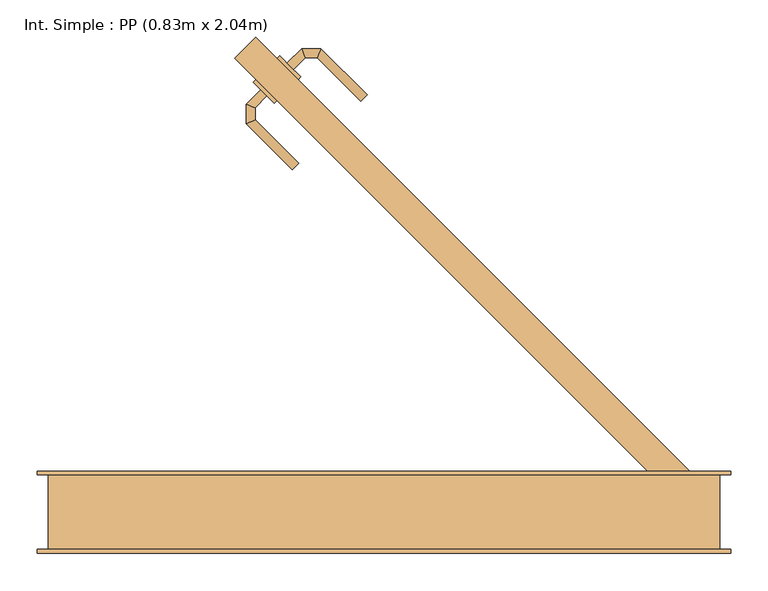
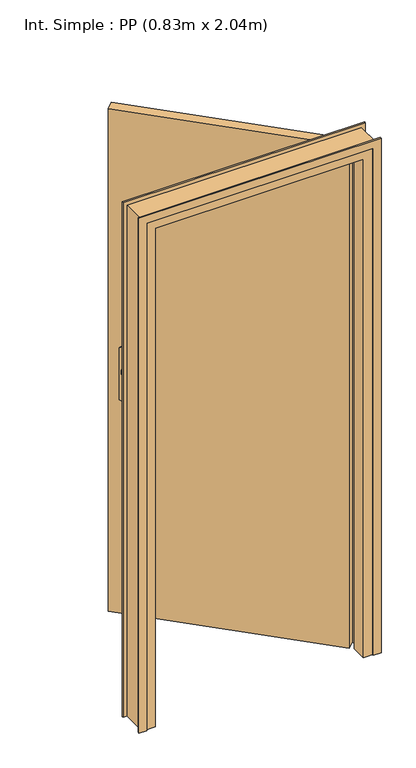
"""IFC4 building model written with IfcOpenShell, lengths in millimetres: door geometry, Int. Simple : PP (0.83m x 2.04m)."""

import ifcopenshell
import ifcopenshell.guid

model = None  # the IFC model being written
_history = None  # IfcOwnerHistory: only IFC2X3 demands one
_inside = {}  # id of a spatial element -> (the spatial element, [elements in it])
_under = {}  # id of a project, library or spatial element -> (it, [spatial elements below it])
_declared = {}  # id of a project -> (the project, [libraries it declares])
_typed = {}  # id of a type object -> (the type object, [elements of that type])
_made_of = {}  # id of a material, layer set ... -> (it, [elements and type objects made of it])


def new_model(schema):
    """Start an empty IFC model of exactly this schema.

    Asked for "IFC4X3", IfcOpenShell would pick the latest addendum, in which some entities
    have other attributes; the version numbers below select the first issue.
    IFC2X3 requires an IfcOwnerHistory on every rooted entity: one is made here for all.
    """
    global model, _history
    if schema == "IFC4X3":
        model = ifcopenshell.file(schema_version=(4, 3, 0, 0))
    else:
        model = ifcopenshell.file(schema=schema)
    _inside.clear()
    _under.clear()
    _declared.clear()
    _typed.clear()
    _made_of.clear()
    _history = None
    if model.schema == "IFC2X3":
        org = make("IfcOrganization", Name="unknown")
        user = make(
            "IfcPersonAndOrganization",
            ThePerson=make("IfcPerson", FamilyName="unknown"),
            TheOrganization=org,
        )
        app = make(
            "IfcApplication",
            ApplicationDeveloper=org,
            Version="unknown",
            ApplicationFullName="unknown",
            ApplicationIdentifier="unknown",
        )
        _history = make(
            "IfcOwnerHistory",
            OwningUser=user,
            OwningApplication=app,
            ChangeAction="ADDED",
            CreationDate=0,
        )
    return model


def make(cls, **values):
    """One entity of the class cls with the attributes given. An attribute that is None is left unset."""
    return model.create_entity(
        cls, **{name: value for name, value in values.items() if value is not None}
    )


def rooted(cls, **values):
    """An entity with a GlobalId (a new one), such as an element, a storey or a relation."""
    return make(cls, GlobalId=ifcopenshell.guid.new(), OwnerHistory=_history, **values)


def si_unit(unit_type, name, prefix=None):
    """IfcSIUnit, for example si_unit("LENGTHUNIT", "METRE", prefix="MILLI")."""
    return make("IfcSIUnit", UnitType=unit_type, Prefix=prefix, Name=name)


def assignment(units):
    """IfcUnitAssignment: the units of a project."""
    return None if units is None else make("IfcUnitAssignment", Units=units)


def point(xyz):
    """IfcCartesianPoint."""
    return None if xyz is None else make("IfcCartesianPoint", Coordinates=xyz)


def direction(xyz):
    """IfcDirection."""
    return None if xyz is None else make("IfcDirection", DirectionRatios=xyz)


def frame(location, z_axis=None, x_axis=None):
    """IfcAxis2Placement3D, a coordinate frame: its origin and axes. An axis left out is left unset."""
    return make(
        "IfcAxis2Placement3D",
        Location=point(location),
        Axis=direction(z_axis),
        RefDirection=direction(x_axis),
    )


def frame_2d(location, x_axis=None):
    """IfcAxis2Placement2D, a coordinate frame in the plane: its origin and x axis."""
    return make(
        "IfcAxis2Placement2D", Location=point(location), RefDirection=direction(x_axis)
    )


def origin():
    """The frame at (0, 0, 0) with its axes left unset."""
    return frame((0.0, 0.0, 0.0))


def origin_with_axes():
    """The frame at (0, 0, 0) with the z axis (0, 0, 1) and the x axis (1, 0, 0) written out."""
    return frame((0.0, 0.0, 0.0), z_axis=(0.0, 0.0, 1.0), x_axis=(1.0, 0.0, 0.0))


def place(relative_to, where):
    """IfcLocalPlacement: puts the frame where relative to a parent placement (None: the world)."""
    return make(
        "IfcLocalPlacement", PlacementRelTo=relative_to, RelativePlacement=where
    )


def context(
    kind, dimensions, precision=None, world=None, true_north=None, identifier=None
):
    """IfcGeometricRepresentationContext, for example the 3D "Model" context."""
    return make(
        "IfcGeometricRepresentationContext",
        ContextIdentifier=identifier,
        ContextType=kind,
        CoordinateSpaceDimension=dimensions,
        Precision=precision,
        WorldCoordinateSystem=world,
        TrueNorth=true_north,
    )


def project(units=None, contexts=None):
    """IfcProject with its units and contexts."""
    return rooted(
        "IfcProject",
        Name="project",
        RepresentationContexts=contexts,
        UnitsInContext=assignment(units),
    )


def spatial(cls, under=None, at=None, **own):
    """A site, building, storey or space (cls), placed at a placement, below another one or the project."""
    s = rooted(cls, ObjectPlacement=at, **own)
    if under is not None:
        _under.setdefault(under.id(), (under, []))[1].append(s)
    return s


def polyline(points):
    """IfcPolyline through the points."""
    return make("IfcPolyline", Points=[point(p) for p in points])


def circle_curve(where, radius):
    """IfcCircle in the frame where."""
    return make("IfcCircle", Position=where, Radius=radius)


def ellipse_curve(where, semi_axis1, semi_axis2):
    """IfcEllipse in the frame where."""
    return make(
        "IfcEllipse", Position=where, SemiAxis1=semi_axis1, SemiAxis2=semi_axis2
    )


def trimmed(basis, trim1, trim2, sense, master):
    """IfcTrimmedCurve: the piece of a basis curve between two trims."""
    return make(
        "IfcTrimmedCurve",
        BasisCurve=basis,
        Trim1=trim1,
        Trim2=trim2,
        SenseAgreement=sense,
        MasterRepresentation=master,
    )


def segment(curve, same_sense, transition):
    """IfcCompositeCurveSegment."""
    return make(
        "IfcCompositeCurveSegment",
        Transition=transition,
        SameSense=same_sense,
        ParentCurve=curve,
    )


def composite_curve(segments, self_intersect=None):
    """IfcCompositeCurve: segments joined end to end."""
    return make("IfcCompositeCurve", Segments=segments, SelfIntersect=self_intersect)


def outline(outer, holes=None, kind="AREA"):
    """IfcArbitraryClosedProfileDef: a profile drawn as a closed curve; with holes, ...WithVoids."""
    if holes is None:
        return make("IfcArbitraryClosedProfileDef", ProfileType=kind, OuterCurve=outer)
    return make(
        "IfcArbitraryProfileDefWithVoids",
        ProfileType=kind,
        OuterCurve=outer,
        InnerCurves=holes,
    )


def extrude(swept, where, along, depth):
    """IfcExtrudedAreaSolid: the profile swept, set in the frame where, extruded along a direction by depth."""
    return make(
        "IfcExtrudedAreaSolid",
        SweptArea=swept,
        Position=where,
        ExtrudedDirection=direction(along),
        Depth=depth,
    )


def faces_of(points, faces, orient=None, outer=None):
    """IfcFace entities. A face is a list of loops; a loop is a list of indices into points, from 0.

    orient and outer hold one flag for each loop. By default every Orientation is true, the
    first loop of a face is its IfcFaceOuterBound and the others are IfcFaceBound.
    """
    made = []
    for i, loops in enumerate(faces):
        bounds = []
        for j, loop in enumerate(loops):
            is_outer = j == 0 if outer is None else outer[i][j]
            bounds.append(
                make(
                    "IfcFaceOuterBound" if is_outer else "IfcFaceBound",
                    Bound=make("IfcPolyLoop", Polygon=[points[k] for k in loop]),
                    Orientation=True if orient is None else orient[i][j],
                )
            )
        made.append(make("IfcFace", Bounds=bounds))
    return made


def faceted_brep(points, faces, orient=None, outer=None, voids=None):
    """IfcFacetedBrep: a solid bounded by flat faces; with voids (closed shells), ...WithVoids."""
    shared = [point(p) for p in points]
    hull = make("IfcClosedShell", CfsFaces=faces_of(shared, faces, orient, outer))
    if voids is None:
        return make("IfcFacetedBrep", Outer=hull)
    return make(
        "IfcFacetedBrepWithVoids",
        Outer=hull,
        Voids=[
            make(cls, CfsFaces=faces_of(shared, fs, o, b)) for cls, fs, o, b in voids
        ],
    )


def shape(context_of_items, identifier, shape_type, items):
    """IfcShapeRepresentation: the items that make up one representation, for example the "Body"."""
    return make(
        "IfcShapeRepresentation",
        ContextOfItems=context_of_items,
        RepresentationIdentifier=identifier,
        RepresentationType=shape_type,
        Items=items,
    )


def source(mapping_origin, context_of_items, identifier, shape_type, items):
    """IfcRepresentationMap: a shape defined once, which mapped items show again and again."""
    return make(
        "IfcRepresentationMap",
        MappingOrigin=mapping_origin,
        MappedRepresentation=shape(context_of_items, identifier, shape_type, items),
    )


def transform(
    local_origin,
    x_axis=None,
    y_axis=None,
    z_axis=None,
    scale=None,
    scale2=None,
    scale3=None,
    uniform=True,
):
    """IfcCartesianTransformationOperator3D, or its non-uniform kind. x_axis, y_axis, z_axis: its Axis1, 2, 3."""
    if uniform:
        return make(
            "IfcCartesianTransformationOperator3D",
            Axis1=direction(x_axis),
            Axis2=direction(y_axis),
            LocalOrigin=point(local_origin),
            Scale=scale,
            Axis3=direction(z_axis),
        )
    return make(
        "IfcCartesianTransformationOperator3DnonUniform",
        Axis1=direction(x_axis),
        Axis2=direction(y_axis),
        LocalOrigin=point(local_origin),
        Scale=scale,
        Axis3=direction(z_axis),
        Scale2=scale2,
        Scale3=scale3,
    )


def mapped(mapping_source, mapping_target):
    """IfcMappedItem: shows the shape of a source again, moved by a transform."""
    return make(
        "IfcMappedItem", MappingSource=mapping_source, MappingTarget=mapping_target
    )


def made_of(thing, what):
    """Note that an element or type object is made of a material, layer set ...; save() writes the relation."""
    if what is not None:
        _made_of.setdefault(what.id(), (what, []))[1].append(thing)
    return thing


def element(
    cls,
    number,
    at=None,
    inside=None,
    cuts=None,
    type_object=None,
    material=None,
    context=None,
    identifier="Body",
    shape_type=None,
    held_by="IfcProductDefinitionShape",
    body=None,
    shapes=None,
    **own,
):
    """One element of the class cls, such as IfcWall. Its Tag is "e" and its number.

    at: its placement. inside: the storey or other place that contains it. cuts: it is an
    opening in that element (IfcRelVoidsElement). A single representation is given by context,
    identifier, shape_type and body (its items); several are given by shapes. held_by: the class
    of the entity that holds the representations. save() writes the other relations.
    """
    e = rooted(cls, Tag="e%d" % number, ObjectPlacement=at, **own)
    if body is not None:
        shapes = [shape(context, identifier, shape_type, body)]
    if shapes is not None:
        e.Representation = make(held_by, Representations=shapes)
    if inside is not None:
        _inside.setdefault(inside.id(), (inside, []))[1].append(e)
    if cuts is not None:
        rooted(
            "IfcRelVoidsElement", RelatingBuildingElement=cuts, RelatedOpeningElement=e
        )
    if type_object is not None:
        _typed.setdefault(type_object.id(), (type_object, []))[1].append(e)
    return made_of(e, material)


def aggregate(whole, parts):
    """IfcRelAggregates: a whole, such as a stair, and the parts it consists of."""
    return rooted("IfcRelAggregates", RelatingObject=whole, RelatedObjects=parts)


def save(model, path):
    """Write the relations noted so far, then the file.

    IfcRelAggregates (storeys below a building ...), IfcRelContainedInSpatialStructure (elements
    in a storey), IfcRelDefinesByType, IfcRelAssociatesMaterial and IfcRelDeclares: one each for
    every whole, place, type object, material and project.
    """
    for whole, parts in _under.values():
        aggregate(whole, parts)
    for where, things in _inside.values():
        rooted(
            "IfcRelContainedInSpatialStructure",
            RelatedElements=things,
            RelatingStructure=where,
        )
    for kind, things in _typed.values():
        rooted("IfcRelDefinesByType", RelatedObjects=things, RelatingType=kind)
    for what, things in _made_of.values():
        rooted("IfcRelAssociatesMaterial", RelatedObjects=things, RelatingMaterial=what)
    for by, libraries in _declared.values():
        rooted("IfcRelDeclares", RelatingContext=by, RelatedDefinitions=libraries)
    model.write(path)


def plane_surface(at):
    """IfcPlane: the flat surface through the origin of the frame at, square to its z axis."""
    return make("IfcPlane", Position=at)


def cylinder_surface(at, radius):
    """IfcCylindricalSurface: all points at the distance radius from the z axis of the frame at."""
    return make("IfcCylindricalSurface", Position=at, Radius=radius)


def advanced_brep(points, edges, surfaces, faces):
    """IfcAdvancedBrep: a solid bounded by faces that lie on surfaces and meet in shared edges.

    An edge is (start, end): straight between two places in points (the first is 0);
    or (start, end, curve); or (start, end, curve, False) where it runs against its curve.
    A face is (place in surfaces, loops), or (place, loops, False) where it looks against
    its surface's normal. A loop lists edges by number (the first is 1), with a minus sign
    where the edge is run from its end to its start. The first loop is the outer one.
    """
    corners = [point(p) for p in points]
    vertices = [make("IfcVertexPoint", VertexGeometry=c) for c in corners]
    made = []
    for start, end, *more in edges:
        made.append(
            make(
                "IfcEdgeCurve",
                EdgeStart=vertices[start],
                EdgeEnd=vertices[end],
                EdgeGeometry=more[0] if more else make("IfcPolyline", Points=[corners[start], corners[end]]),
                SameSense=more[1] if len(more) > 1 else True,
            )
        )
    hull = []
    for where, loops, *sense in faces:
        bounds = []
        for j, loop in enumerate(loops):
            ring = [make("IfcOrientedEdge", EdgeElement=made[abs(k) - 1], Orientation=k > 0) for k in loop]
            bounds.append(
                make(
                    "IfcFaceOuterBound" if j == 0 else "IfcFaceBound",
                    Bound=make("IfcEdgeLoop", EdgeList=ring),
                    Orientation=True,
                )
            )
        hull.append(make("IfcAdvancedFace", Bounds=bounds, FaceSurface=surfaces[where], SameSense=sense[0] if sense else True))
    return make("IfcAdvancedBrep", Outer=make("IfcClosedShell", CfsFaces=hull))


def int_simple_pp_0_83m_x_2_04m_63dcc06d(model_context):
    return source(origin(), model_context, "Body", "SolidModel", [
        extrude(outline(composite_curve([segment(trimmed(circle_curve(frame_2d((0.0, 39.9999999)), 40.0), [point((34.6410162, 59.9999999))], [point((34.6410162, 20.0))], False, "CARTESIAN"), True, "CONTINUOUS"), segment(polyline([(34.6410162, 20.0), (-175.3589838, 20.0)]), True, "CONTINUOUS"), segment(trimmed(circle_curve(frame_2d((-140.7179676, 39.9999999)), 40.0), [point((-175.3589838, 20.0))], [point((-175.3589838, 59.9999999))], False, "CARTESIAN"), True, "CONTINUOUS"), segment(polyline([(-175.3589838, 59.9999999), (34.6410162, 59.9999999)]), True, "CONTINUOUS")], self_intersect=False)), frame((-136.1879503, 566.1879503, 904.6410162), z_axis=(0.7071067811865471, 0.707106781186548, 0.0), x_axis=(0.0, 0.0, -1.0)), (0.0, 0.0, 1.0), 5.0),
        extrude(outline(composite_curve([segment(trimmed(circle_curve(frame_2d((0.0, 40.0000001)), 40.0), [point((-34.6410162, 20.0))], [point((-34.6410162, 60.0))], False, "CARTESIAN"), True, "CONTINUOUS"), segment(polyline([(-34.6410162, 60.0), (175.3589838, 60.0)]), True, "CONTINUOUS"), segment(trimmed(circle_curve(frame_2d((140.7179676, 40.0000001)), 40.0), [point((175.3589838, 60.0))], [point((175.3589838, 20.0))], False, "CARTESIAN"), True, "CONTINUOUS"), segment(polyline([(175.3589838, 20.0), (-34.6410162, 20.0)]), True, "CONTINUOUS")], self_intersect=False)), frame((-168.0077554, 534.3681451, 1045.3589838), z_axis=(0.7071067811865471, 0.707106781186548, 0.0), x_axis=(0.0, 0.0, -1.0)), (0.0, 0.0, 1.0), 5.0),
        advanced_brep(
        [(-165.1793283, 602.2503961, 1007.0), (-165.1793283, 602.2503961, 993.0), (-156.6940469, 593.7651147, 993.0), (-156.6940469, 593.7651147, 1007.0), (-140.6565908, 609.8025709, 1007.0), (-145.6271535, 621.8025709, 1007.0), (-140.6565908, 609.8025709, 993.0), (-145.6271535, 621.8025709, 993.0), (-124.6084167, 609.8025709, 1007.0), (-119.637854, 621.8025709, 1007.0), (-124.6084167, 609.8025709, 993.0), (-119.637854, 621.8025709, 993.0), (-57.666004, 559.830721, 1007.0), (-66.1512854, 551.3454396, 1007.0), (-66.1512854, 551.3454396, 993.0), (-57.666004, 559.830721, 993.0)],
        [
            (0, 1),
            (1, 2, circle_curve(frame((-160.9366876, 598.0077554, 1013.0457722), z_axis=(-0.7071067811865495, -0.7071067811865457, 0.0), x_axis=(0.7071067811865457, -0.7071067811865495, 0.0)), 20.9244589)),
            (2, 3),
            (3, 0, circle_curve(frame((-160.9366876, 598.0077554, 986.9542278), z_axis=(-0.7071067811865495, -0.7071067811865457, 0.0), x_axis=(0.7071067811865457, -0.7071067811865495, 0.0)), 20.9244589)),
            (3, 4),
            (4, 5, ellipse_curve(frame((-143.1418722, 615.8025709, 986.9542278), z_axis=(-0.9238795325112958, -0.38268343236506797, 0.0), x_axis=(0.3826834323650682, -0.9238795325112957, 0.0)), 22.6484711, 20.9244589)),
            (5, 0),
            (2, 6),
            (6, 4),
            (1, 7),
            (7, 6, ellipse_curve(frame((-143.1418722, 615.8025709, 1013.0457722), z_axis=(-0.9238795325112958, -0.38268343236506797, 0.0), x_axis=(0.3826834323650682, -0.9238795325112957, 0.0)), 22.6484711, 20.9244589)),
            (5, 7),
            (4, 8),
            (8, 9, ellipse_curve(frame((-122.1231353, 615.8025709, 986.9542278), z_axis=(-0.9238795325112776, 0.38268343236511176, 0.0), x_axis=(-0.3826834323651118, -0.9238795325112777, 0.0)), 22.6484711, 20.9244589)),
            (9, 5),
            (6, 10),
            (10, 8),
            (7, 11),
            (11, 10, ellipse_curve(frame((-122.1231353, 615.8025709, 1013.0457722), z_axis=(-0.9238795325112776, 0.38268343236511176, 0.0), x_axis=(-0.3826834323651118, -0.9238795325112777, 0.0)), 22.6484711, 20.9244589)),
            (9, 11),
            (12, 13, circle_curve(frame((-61.9086447, 555.5880803, 986.9542278), z_axis=(0.7071067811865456, -0.7071067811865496, 0.0), x_axis=(-0.7071067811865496, -0.7071067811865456, 0.0)), 20.9244589)),
            (13, 14),
            (14, 15, circle_curve(frame((-61.9086447, 555.5880803, 1013.0457722), z_axis=(0.7071067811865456, -0.7071067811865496, 0.0), x_axis=(-0.7071067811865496, -0.7071067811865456, 0.0)), 20.9244589)),
            (15, 12),
            (8, 13),
            (12, 9),
            (10, 14),
            (11, 15),
        ],
        [
            plane_surface(frame((-167.45589, 604.5269578, 1000.0), z_axis=(-0.7071067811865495, -0.7071067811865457, 0.0), x_axis=(0.0, 0.0, -1.0))),
            cylinder_surface(frame((-160.9366876, 598.0077554, 986.9542278), z_axis=(-0.7071067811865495, -0.7071067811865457, 0.0), x_axis=(0.7071067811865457, -0.7071067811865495, 0.0)), 20.9244589),
            plane_surface(frame((-156.6940469, 593.7651147, 1007.0), z_axis=(0.7071067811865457, -0.7071067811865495, 0.0), x_axis=(0.7071067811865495, 0.7071067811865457, 0.0))),
            cylinder_surface(frame((-160.9366876, 598.0077554, 1013.0457722), z_axis=(-0.7071067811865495, -0.7071067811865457, 0.0), x_axis=(0.7071067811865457, -0.7071067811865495, 0.0)), 20.9244589),
            plane_surface(frame((-165.1793283, 602.2503961, 993.0), z_axis=(-0.7071067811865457, 0.7071067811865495, 0.0), x_axis=(0.7071067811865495, 0.7071067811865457, 0.0))),
            cylinder_surface(frame((-143.1418722, 615.8025709, 986.9542278), z_axis=(-1.0, 0.0, 0.0), x_axis=(0.0, -1.0, 0.0)), 20.9244589),
            plane_surface(frame((-140.6565908, 609.8025709, 1007.0), z_axis=(0.0, -1.0, 0.0), x_axis=(1.0, 0.0, 0.0))),
            cylinder_surface(frame((-143.1418722, 615.8025709, 1013.0457722), z_axis=(-1.0, 0.0, 0.0), x_axis=(0.0, -1.0, 0.0)), 20.9244589),
            plane_surface(frame((-145.6271535, 621.8025709, 993.0), z_axis=(0.0, 1.0, 0.0), x_axis=(1.0, 0.0, 0.0))),
            plane_surface(frame((-61.9086447, 555.5880803, 990.7804555), z_axis=(0.7071067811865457, -0.7071067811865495, 0.0), x_axis=(-0.7071067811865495, -0.7071067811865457, 0.0))),
            cylinder_surface(frame((-122.1231353, 615.8025709, 986.9542278), z_axis=(-0.7071067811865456, 0.7071067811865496, 0.0), x_axis=(-0.7071067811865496, -0.7071067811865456, 0.0)), 20.9244589),
            plane_surface(frame((-124.6084167, 609.8025709, 1007.0), z_axis=(-0.7071067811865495, -0.7071067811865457, 0.0), x_axis=(0.7071067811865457, -0.7071067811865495, 0.0))),
            cylinder_surface(frame((-122.1231353, 615.8025709, 1013.0457722), z_axis=(-0.7071067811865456, 0.7071067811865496, 0.0), x_axis=(-0.7071067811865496, -0.7071067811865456, 0.0)), 20.9244589),
            plane_surface(frame((-119.637854, 621.8025709, 993.0), z_axis=(0.7071067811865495, 0.7071067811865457, 0.0), x_axis=(0.7071067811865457, -0.7071067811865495, 0.0))),
        ],
        [
            (0, [[1, 2, 3, 4]]),
            (1, [[5, 6, 7, -4]]),
            (2, [[8, 9, -5, -3]]),
            (3, [[10, 11, -8, -2]]),
            (4, [[-7, 12, -10, -1]]),
            (5, [[13, 14, 15, -6]]),
            (6, [[16, 17, -13, -9]]),
            (7, [[18, 19, -16, -11]]),
            (8, [[-15, 20, -18, -12]]),
            (9, [[21, 22, 23, 24]]),
            (10, [[25, -21, 26, -14]]),
            (11, [[27, -22, -25, -17]]),
            (12, [[28, -23, -27, -19]]),
            (13, [[-26, -24, -28, -20]]),
        ],
    ),
        advanced_brep(
        [(-192.049386, 558.4097757, 993.0), (-200.5346674, 566.895057, 993.0), (-200.5346674, 566.895057, 1007.0), (-192.049386, 558.4097757, 1007.0), (-207.9488266, 542.5103351, 1007.0), (-207.9488266, 542.5103351, 993.0), (-219.9488266, 547.4808978, 1007.0), (-219.9488266, 547.4808978, 993.0), (-207.9488266, 526.2676944, 1007.0), (-207.9488266, 526.2676944, 993.0), (-219.9488266, 521.2971317, 1007.0), (-219.9488266, 521.2971317, 993.0), (-149.5697355, 467.8886034, 993.0), (-149.5697355, 467.8886034, 1007.0), (-158.0550169, 459.403322, 1007.0), (-158.0550169, 459.403322, 993.0)],
        [
            (0, 1, circle_curve(frame((-196.2920267, 562.6524164, 1013.0457722), z_axis=(0.7071067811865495, 0.7071067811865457, 0.0), x_axis=(-0.7071067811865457, 0.7071067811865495, 0.0)), 20.9244589)),
            (1, 2),
            (2, 3, circle_curve(frame((-196.2920267, 562.6524164, 986.9542278), z_axis=(0.7071067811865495, 0.7071067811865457, 0.0), x_axis=(-0.7071067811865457, 0.7071067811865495, 0.0)), 20.9244589)),
            (3, 0),
            (3, 4),
            (4, 5),
            (5, 0),
            (2, 6),
            (6, 4, ellipse_curve(frame((-213.9488266, 544.9956165, 986.9542278), z_axis=(0.3826834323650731, 0.9238795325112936, 0.0), x_axis=(0.923879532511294, -0.38268343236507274, 0.0)), 22.6484711, 20.9244589)),
            (1, 7),
            (7, 6),
            (5, 7, ellipse_curve(frame((-213.9488266, 544.9956165, 1013.0457722), z_axis=(0.3826834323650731, 0.9238795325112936, 0.0), x_axis=(0.923879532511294, -0.38268343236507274, 0.0)), 22.6484711, 20.9244589)),
            (4, 8),
            (8, 9),
            (9, 5),
            (6, 10),
            (10, 8, ellipse_curve(frame((-213.9488266, 523.782413, 986.9542278), z_axis=(-0.3826834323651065, 0.9238795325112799, 0.0), x_axis=(0.92387953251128, 0.3826834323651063, 0.0)), 22.6484711, 20.9244589)),
            (7, 11),
            (11, 10),
            (9, 11, ellipse_curve(frame((-213.9488266, 523.782413, 1013.0457722), z_axis=(-0.3826834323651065, 0.9238795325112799, 0.0), x_axis=(0.92387953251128, 0.3826834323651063, 0.0)), 22.6484711, 20.9244589)),
            (12, 13),
            (13, 14, circle_curve(frame((-153.8123762, 463.6459627, 986.9542278), z_axis=(0.7071067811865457, -0.7071067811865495, 0.0), x_axis=(-0.7071067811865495, -0.7071067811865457, 0.0)), 20.9244589)),
            (14, 15),
            (15, 12, circle_curve(frame((-153.8123762, 463.6459627, 1013.0457722), z_axis=(0.7071067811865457, -0.7071067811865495, 0.0), x_axis=(-0.7071067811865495, -0.7071067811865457, 0.0)), 20.9244589)),
            (8, 13),
            (12, 9),
            (10, 14),
            (11, 15),
        ],
        [
            plane_surface(frame((-202.8112291, 569.1716188, 1000.0), z_axis=(0.7071067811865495, 0.7071067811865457, 0.0), x_axis=(0.0, 0.0, 1.0))),
            plane_surface(frame((-192.049386, 558.4097757, 993.0), z_axis=(0.7071067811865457, -0.7071067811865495, 0.0), x_axis=(-0.7071067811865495, -0.7071067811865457, 0.0))),
            cylinder_surface(frame((-196.2920267, 562.6524164, 986.9542278), z_axis=(0.7071067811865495, 0.7071067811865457, 0.0), x_axis=(-0.7071067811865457, 0.7071067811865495, 0.0)), 20.9244589),
            plane_surface(frame((-200.5346674, 566.895057, 1007.0), z_axis=(-0.7071067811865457, 0.7071067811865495, 0.0), x_axis=(-0.7071067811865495, -0.7071067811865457, 0.0))),
            cylinder_surface(frame((-196.2920267, 562.6524164, 1013.0457722), z_axis=(0.7071067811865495, 0.7071067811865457, 0.0), x_axis=(-0.7071067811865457, 0.7071067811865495, 0.0)), 20.9244589),
            plane_surface(frame((-207.9488266, 542.5103351, 993.0), z_axis=(1.0, 0.0, 0.0), x_axis=(0.0, -1.0, 0.0))),
            cylinder_surface(frame((-213.9488266, 544.9956165, 986.9542278), z_axis=(0.0, 1.0, 0.0), x_axis=(-1.0, 0.0, 0.0)), 20.9244589),
            plane_surface(frame((-219.9488266, 547.4808978, 1007.0), z_axis=(-1.0, 0.0, 0.0), x_axis=(0.0, -1.0, 0.0))),
            cylinder_surface(frame((-213.9488266, 544.9956165, 1013.0457722), z_axis=(0.0, 1.0, 0.0), x_axis=(-1.0, 0.0, 0.0)), 20.9244589),
            plane_surface(frame((-153.8123762, 463.6459627, 990.7804555), z_axis=(0.7071067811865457, -0.7071067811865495, 0.0), x_axis=(-0.7071067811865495, -0.7071067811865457, 0.0))),
            plane_surface(frame((-207.9488266, 526.2676944, 993.0), z_axis=(0.7071067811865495, 0.7071067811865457, 0.0), x_axis=(0.7071067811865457, -0.7071067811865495, 0.0))),
            cylinder_surface(frame((-213.9488266, 523.782413, 986.9542278), z_axis=(-0.7071067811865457, 0.7071067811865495, 0.0), x_axis=(-0.7071067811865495, -0.7071067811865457, 0.0)), 20.9244589),
            plane_surface(frame((-219.9488266, 521.2971317, 1007.0), z_axis=(-0.7071067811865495, -0.7071067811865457, 0.0), x_axis=(0.7071067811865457, -0.7071067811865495, 0.0))),
            cylinder_surface(frame((-213.9488266, 523.782413, 1013.0457722), z_axis=(-0.7071067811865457, 0.7071067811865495, 0.0), x_axis=(-0.7071067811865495, -0.7071067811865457, 0.0)), 20.9244589),
        ],
        [
            (0, [[1, 2, 3, 4]]),
            (1, [[5, 6, 7, -4]]),
            (2, [[8, 9, -5, -3]]),
            (3, [[10, 11, -8, -2]]),
            (4, [[-7, 12, -10, -1]]),
            (5, [[13, 14, 15, -6]]),
            (6, [[16, 17, -13, -9]]),
            (7, [[18, 19, -16, -11]]),
            (8, [[-15, 20, -18, -12]]),
            (9, [[21, 22, 23, 24]]),
            (10, [[25, -21, 26, -14]]),
            (11, [[27, -22, -25, -17]]),
            (12, [[28, -23, -27, -19]]),
            (13, [[-26, -24, -28, -20]]),
        ],
    ),
        extrude(outline(polyline([(-235.1828996, 608.6143571), (-206.8986284, 636.8986284), (380.0, 50.0), (351.7157288, 21.7157288), (-235.1828996, 608.6143571)])), origin_with_axes(), (0.0, 0.0, 1.0), 2040.0),
        faceted_brep([(-485.0, 50.0, 0.0), (-450.0, 50.0, 0.0), (-450.0, 10.0, 0.0), (-435.0, 10.0, 0.0), (-435.0, -50.0, 0.0), (-485.0, -50.0, 0.0), (-485.0, -50.0, 2075.0), (-485.0, 50.0, 2075.0), (-435.0, -50.0, 2025.0), (365.0, -50.0, 2025.0), (365.0, -50.0, 0.0), (415.0, -50.0, 0.0), (415.0, -50.0, 2075.0), (-435.0, 10.0, 2025.0), (-450.0, 10.0, 2040.0), (380.0, 10.0, 2040.0), (380.0, 10.0, 0.0), (365.0, 10.0, 0.0), (365.0, 10.0, 2025.0), (-450.0, 50.0, 2040.0), (415.0, 50.0, 2075.0), (415.0, 50.0, 0.0), (380.0, 50.0, 0.0), (380.0, 50.0, 2040.0)], [[[0, 1, 2, 3, 4, 5]], [[5, 6, 7, 0]], [[4, 8, 9, 10, 11, 12, 6, 5]], [[3, 13, 8, 4]], [[2, 14, 15, 16, 17, 18, 13, 3]], [[1, 19, 14, 2]], [[0, 7, 20, 21, 22, 23, 19, 1]], [[12, 11, 21, 20]], [[21, 11, 10, 17, 16, 22]], [[18, 17, 10, 9]], [[23, 22, 16, 15]], [[6, 12, 20, 7]], [[13, 18, 9, 8]], [[19, 23, 15, 14]]]),
        extrude(outline(polyline([(0.0, -470.0), (2060.0, -470.0), (2060.0, 400.0), (0.0, 400.0), (0.0, 430.0), (2090.0, 430.0), (2090.0, -500.0), (0.0, -500.0), (0.0, -470.0)])), frame((0.0, 50.0, 0.0), z_axis=(0.0, 1.0, 0.0), x_axis=(0.0, 0.0, 1.0)), (0.0, 0.0, 1.0), 5.0),
        extrude(outline(polyline([(0.0, -470.0), (2060.0, -470.0), (2060.0, 400.0), (0.0, 400.0), (0.0, 430.0), (2090.0, 430.0), (2090.0, -500.0), (0.0, -500.0), (0.0, -470.0)])), frame((0.0, -55.0, 0.0), z_axis=(0.0, 1.0, 0.0), x_axis=(0.0, 0.0, 1.0)), (0.0, 0.0, 1.0), 5.0),
    ])


if __name__ == "__main__":
    model = new_model("IFC4")
    model_context = context("Model", 3, world=origin())
    ifc_project = project(units=[si_unit("LENGTHUNIT", "METRE", prefix="MILLI")], contexts=[model_context])
    site = spatial("IfcSite", under=ifc_project)
    building = spatial("IfcBuilding", under=site)
    placement = place(None, origin())
    int_simple_pp_0_83m_x_2_04m_shape = int_simple_pp_0_83m_x_2_04m_63dcc06d(model_context)
    element("IfcDoor", 1, ObjectType="Int. Simple : PP (0.83m x 2.04m)", at=placement, inside=building, context=model_context, shape_type="MappedRepresentation", body=[
        mapped(int_simple_pp_0_83m_x_2_04m_shape, transform((0.0, 0.0, 0.0), x_axis=(1.0, 0.0, 0.0), y_axis=(0.0, 1.0, 0.0), z_axis=(0.0, 0.0, 1.0))),
    ])
    save(model, "model.ifc")
